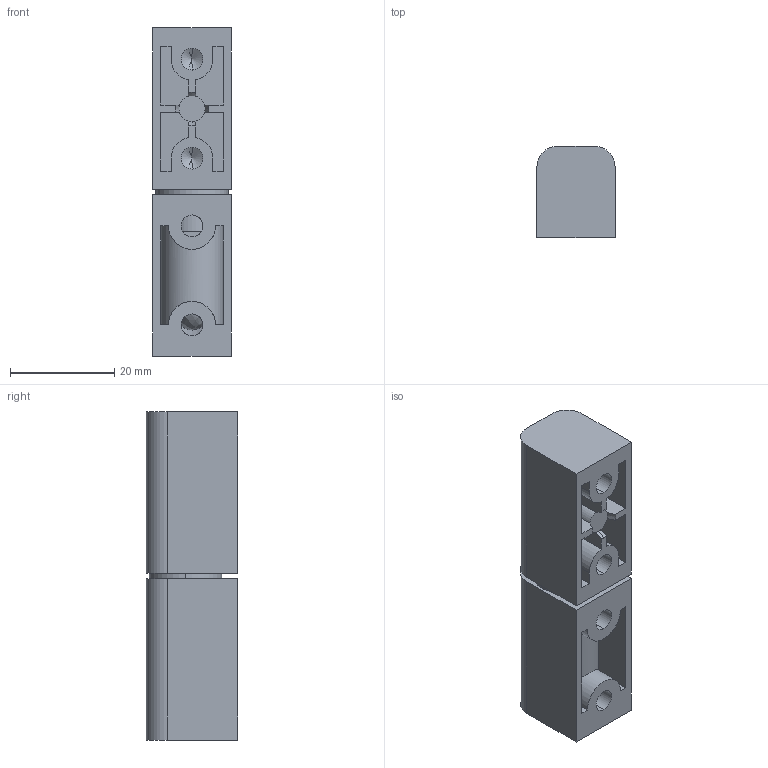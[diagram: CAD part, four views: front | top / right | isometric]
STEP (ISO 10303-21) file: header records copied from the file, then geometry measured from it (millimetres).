
FILE_DESCRIPTION (( 'STEP AP214' ), '1' );
FILE_NAME ('SK2-013.STEP', '2020-04-15T06:50:46', ( 'admin' ), ( 'Microsoft' ), 'SwSTEP 2.0', 'SolidWorks 2018', '' );
FILE_SCHEMA (( 'AUTOMOTIVE_DESIGN' ));
Length unit declared in the file: millimetre
Products named in the file (4): SK2-013-F3; SK2-013-F2; SK2-013-F1; SK2-013
Assembly tree (3 placements, depth 2):
  SK2-013
    SK2-013-F1
    SK2-013-F2
    SK2-013-F3
Bounding box: 15 x 17.5 x 63 mm (x, y, z)
Volume: 11540.2 mm3; surface area: 9546 mm2
Topology: 3 solids, 3 shells, 101 faces, 257 edges, 163 vertices
Faces by surface type: plane 49, cylinder 39, cone 11, bspline 2
Entity records: 3475 total; most frequent: CARTESIAN_POINT 778, DIRECTION 531, ORIENTED_EDGE 502, EDGE_CURVE 251, AXIS2_PLACEMENT_3D 192, VERTEX_POINT 163, LINE 147, VECTOR 147
